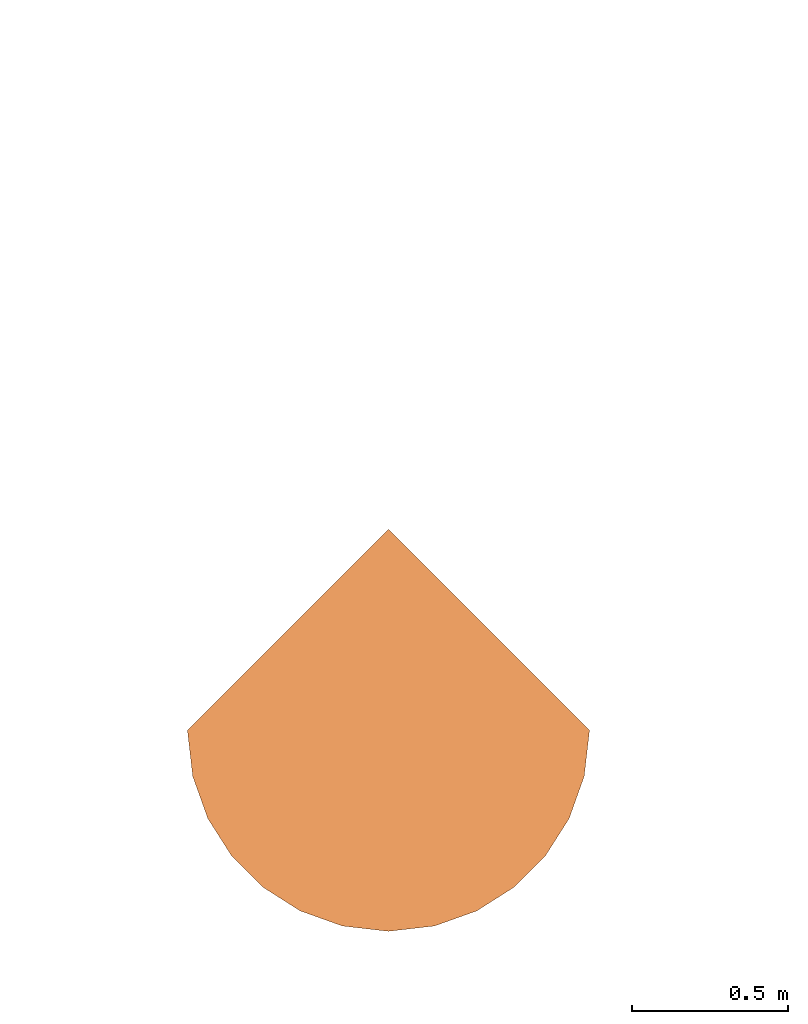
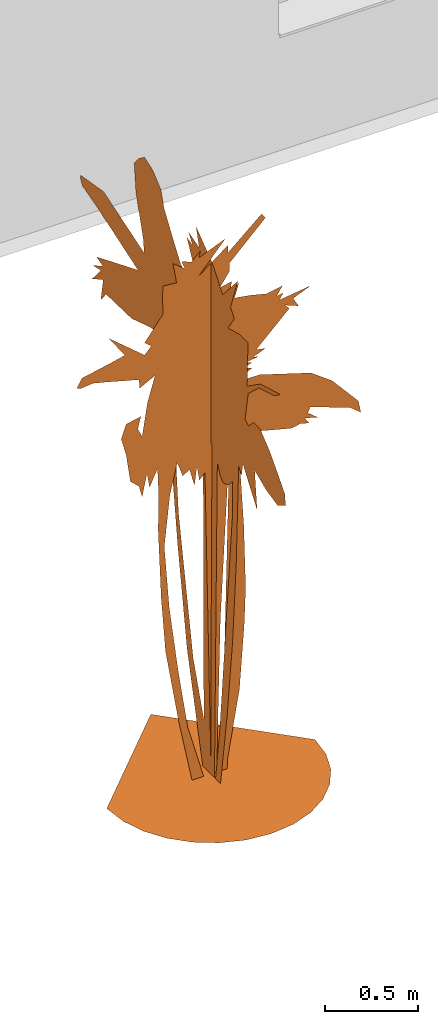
# One storey, part 18 of 18: 1 proxy.
"""IFC2X3 building model written with IfcOpenShell, lengths in metres."""

from ifc_helpers import new_model, entity, si_unit, converted_unit, derived_unit, direction, frame, origin, place, context, subcontext, project, spatial, face_set, surface_model, source, transform, mapped, type_object, type_shapes, element, save


model = new_model("IFC2X3")

# Units and contexts
model_context = context("Model", 3, precision=1e-05, world=origin(), true_north=direction((6.12303176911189e-17, 1.0)))
body_context = subcontext(model_context, "Body", "Model", "MODEL_VIEW")
ifc_project = project(units=[si_unit("LENGTHUNIT", "METRE"), si_unit("AREAUNIT", "SQUARE_METRE"), si_unit("VOLUMEUNIT", "CUBIC_METRE"), converted_unit("PLANEANGLEUNIT", "DEGREE", entity("IfcRatioMeasure", 0.0174532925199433), si_unit("PLANEANGLEUNIT", "RADIAN"), dimensions=[0, 0, 0, 0, 0, 0, 0]), si_unit("MASSUNIT", "GRAM", prefix="KILO"), derived_unit("MASSDENSITYUNIT", [(si_unit("MASSUNIT", "GRAM", prefix="KILO"), 1), (si_unit("LENGTHUNIT", "METRE"), -3)]), derived_unit("MOMENTOFINERTIAUNIT", [(si_unit("LENGTHUNIT", "METRE"), 4)]), si_unit("TIMEUNIT", "SECOND"), si_unit("FREQUENCYUNIT", "HERTZ"), si_unit("THERMODYNAMICTEMPERATUREUNIT", "DEGREE_CELSIUS"), derived_unit("THERMALTRANSMITTANCEUNIT", [(si_unit("MASSUNIT", "GRAM", prefix="KILO"), 1), (si_unit("THERMODYNAMICTEMPERATUREUNIT", "KELVIN"), -1), (si_unit("TIMEUNIT", "SECOND"), -3)]), derived_unit("VOLUMETRICFLOWRATEUNIT", [(si_unit("LENGTHUNIT", "METRE"), 3), (si_unit("TIMEUNIT", "SECOND"), -1)]), si_unit("ELECTRICCURRENTUNIT", "AMPERE"), si_unit("ELECTRICVOLTAGEUNIT", "VOLT"), si_unit("POWERUNIT", "WATT"), si_unit("FORCEUNIT", "NEWTON", prefix="KILO"), si_unit("ILLUMINANCEUNIT", "LUX"), si_unit("LUMINOUSFLUXUNIT", "LUMEN"), si_unit("LUMINOUSINTENSITYUNIT", "CANDELA"), derived_unit("USERDEFINED", [(si_unit("MASSUNIT", "GRAM", prefix="KILO"), -1), (si_unit("LENGTHUNIT", "METRE"), -2), (si_unit("TIMEUNIT", "SECOND"), 3), (si_unit("LUMINOUSFLUXUNIT", "LUMEN"), 1)]), derived_unit("LINEARVELOCITYUNIT", [(si_unit("LENGTHUNIT", "METRE"), 1), (si_unit("TIMEUNIT", "SECOND"), -1)]), si_unit("PRESSUREUNIT", "PASCAL"), derived_unit("USERDEFINED", [(si_unit("LENGTHUNIT", "METRE"), -2), (si_unit("MASSUNIT", "GRAM", prefix="KILO"), 1), (si_unit("TIMEUNIT", "SECOND"), -2)]), derived_unit("LINEARFORCEUNIT", [(si_unit("MASSUNIT", "GRAM", prefix="KILO"), 1), (si_unit("LENGTHUNIT", "METRE"), 1), (si_unit("TIMEUNIT", "SECOND"), -2), (si_unit("LENGTHUNIT", "METRE"), -1)]), derived_unit("PLANARFORCEUNIT", [(si_unit("MASSUNIT", "GRAM", prefix="KILO"), 1), (si_unit("LENGTHUNIT", "METRE"), 1), (si_unit("TIMEUNIT", "SECOND"), -2), (si_unit("LENGTHUNIT", "METRE"), -2)])], contexts=[model_context])

# Site, building, storey
site_placement = place(None, origin())
site = spatial("IfcSite", under=ifc_project, at=site_placement, Name="Surface", CompositionType="ELEMENT")
building_placement = place(site_placement, origin())
building = spatial("IfcBuilding", under=site, at=building_placement, CompositionType="ELEMENT")
storey_placement = place(building_placement, origin())
storey = spatial("IfcBuildingStorey", under=building, at=storey_placement, Name="RDC", CompositionType="ELEMENT", Elevation=-1.94916083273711e-14)

# Proxy
building_element_proxy_type = type_object("IfcBuildingElementProxyType", Name="RPC Arbre - Tropical:Palmier princesse - 3.6 mètres", PredefinedType="NOTDEFINED")
shared_shape = source(origin(), body_context, "Body", "SurfaceModel", [
    surface_model("IfcFaceBasedSurfaceModel", [(0.643966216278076, 5.62802128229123e-08, 0.0), (0.000196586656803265, 0.643769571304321, 0.0), (-0.643572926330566, 0.0, 0.0), (0.62694872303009, -0.147509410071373, 0.0), (-0.626555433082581, -0.147509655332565, 0.0), (0.578476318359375, -0.282972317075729, 0.0), (-0.578082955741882, -0.282972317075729, 0.0), (-0.502043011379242, -0.402509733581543, 0.0), (0.502436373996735, -0.402509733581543, 0.0), (0.402706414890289, -0.502239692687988, 0.0), (-0.402313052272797, -0.502239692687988, 0.0), (-0.282775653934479, -0.578279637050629, 0.0), (-0.147312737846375, -0.626752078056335, 0.0), (0.00019669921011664, -0.643769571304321, 0.0), (0.147706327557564, -0.626752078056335, 0.0), (0.28316898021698, -0.578279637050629, 0.0), (0.424438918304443, 9.30994364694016e-09, 2.94927317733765), (0.618661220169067, 1.43732408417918e-08, 2.97592300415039), (0.508221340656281, 1.6955288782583e-08, 2.93022317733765), (-0.53145298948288, -3.43029782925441e-08, 2.92259806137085), (-0.630467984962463, -6.51919580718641e-08, 3.06732294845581), (-0.409585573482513, -2.06443377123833e-08, 2.88072329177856), (0.260679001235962, 5.75432127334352e-08, 2.63317328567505), (0.294953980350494, 6.06399614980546e-08, 2.6255734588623), (0.222596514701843, 5.90207112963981e-08, 2.61414828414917), (-0.0858780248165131, 1.45555413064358e-07, 2.04288620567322), (-0.101111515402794, 1.66575648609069e-07, 1.92102126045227), (-0.131578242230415, 1.4460440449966e-07, 2.03527126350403), (0.5996212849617, 1.61182641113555e-07, 2.14952112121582), (0.660553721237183, 1.73119388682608e-07, 2.1000112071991), (0.580578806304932, 1.64985635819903e-07, 2.12286112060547), (-0.39435307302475, 1.1904692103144e-07, 2.10382114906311), (-0.424820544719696, 1.43382410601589e-07, 1.95910367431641), (-0.443860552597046, 1.28798919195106e-07, 2.03527126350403), (-0.0744530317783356, -9.62959346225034e-08, 3.39864778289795), (0.0893051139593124, -1.00265439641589e-07, 3.46719766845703), (-0.0744530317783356, -7.51854485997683e-08, 3.28059801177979), (-0.120153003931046, -9.65659410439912e-08, 3.38722289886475), (-0.0630282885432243, -1.03889432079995e-07, 3.44434790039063), (0.279721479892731, 5.10162181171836e-08, 2.67507334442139), (0.33684648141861, 5.59504624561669e-08, 2.66364816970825), (-0.329610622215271, 1.20961672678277e-07, 2.1114360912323), (-0.379118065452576, 1.37523415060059e-07, 2.00480364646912), (0.542496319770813, 2.95857318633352e-08, 2.86929811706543), (0.458713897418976, 1.92164886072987e-08, 2.90357305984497), (0.911903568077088, 1.82435875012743e-07, 2.11905364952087), (0.927136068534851, 1.97507375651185e-07, 2.03907873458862), (0.862396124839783, 1.84696884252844e-07, 2.09239611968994), (0.607236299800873, 1.73825643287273e-07, 2.08097123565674), (0.55392131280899, 1.68403389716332e-07, 2.09620359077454), (-0.211552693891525, -8.28054459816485e-08, 3.28439777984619), (-0.23440293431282, -1.07796182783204e-07, 3.41769778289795), (-0.158236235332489, -9.30456872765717e-08, 3.35674772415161), (0.253064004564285, 6.32867096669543e-08, 2.59889834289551), (0.203554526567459, 6.35047081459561e-08, 2.58367340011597), (-0.181086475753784, -1.04416935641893e-07, 3.41387272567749), (0.344463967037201, -6.9954705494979e-09, 3.01782306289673), (0.443478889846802, -5.38894674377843e-09, 3.03684806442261), (0.405396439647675, 2.89829820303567e-09, 2.97972306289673), (0.256871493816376, 6.96082064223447e-08, 2.56462340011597), (0.138813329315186, 7.38477005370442e-08, 2.50749839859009), (0.447286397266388, 3.65662274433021e-09, 2.98734817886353), (-0.036369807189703, 1.58956647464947e-07, 1.98195373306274), (-0.0706447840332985, 1.64031898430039e-07, 1.94387131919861), (0.123580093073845, -3.7923224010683e-08, 3.12824800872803), (0.173088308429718, -3.88224758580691e-08, 3.14729800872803), (0.14642982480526, -2.45091836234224e-08, 3.05969812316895), (0.104538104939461, -9.06416962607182e-08, 3.41769778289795), (0.104538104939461, -8.17889456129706e-08, 3.36817289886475), (-0.523835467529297, 4.71192218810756e-08, 2.46941845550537), (-0.432435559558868, 4.83402195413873e-08, 2.48846089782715), (-0.451478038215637, 6.09962117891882e-08, 2.41229345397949), (-0.344843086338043, 1.05526679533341e-08, 2.72457322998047), (-0.44005304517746, 1.45867410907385e-08, 2.67507334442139), (-0.443860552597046, 4.1792222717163e-09, 2.73219834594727), (-0.554302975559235, 6.12399608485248e-08, 2.38182845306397), (0.0550301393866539, -4.68407214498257e-08, 3.15872289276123), (0.127388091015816, -4.59024690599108e-08, 3.17394783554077), (-0.173469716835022, 1.47250905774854e-07, 2.00861126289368), (-0.207744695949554, 1.27810668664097e-07, 2.10762862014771), (-0.143002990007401, 4.44339712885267e-07, 0.355797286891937), (-0.0439865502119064, 5.12477177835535e-07, 8.00449505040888e-06), (-0.116344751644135, 5.09654688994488e-07, 4.04002236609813e-06), (-0.200127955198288, 4.29872226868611e-07, 0.420539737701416), (-0.203936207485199, 3.69069774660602e-07, 0.759481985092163), (-0.280103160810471, 3.40019793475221e-07, 0.900389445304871), (-0.257253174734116, 2.91464828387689e-07, 1.17839674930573), (-0.306760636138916, 2.75339827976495e-07, 1.25456426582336), (-0.287718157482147, 2.17057354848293e-07, 1.58588895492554), (-0.325803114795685, 1.91976627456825e-07, 1.71537145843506), (-0.253445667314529, 1.60908649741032e-07, 1.9095962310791), (-0.321993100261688, 1.55396405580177e-07, 1.92102126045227), (0.748146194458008, 1.40098412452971e-07, 2.30947095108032), (0.614853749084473, 1.55824649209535e-07, 2.18379606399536), (-0.801842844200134, -2.6196732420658e-08, 2.80074823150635), (-0.828502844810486, -2.89079804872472e-08, 2.80834805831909), (-0.79803537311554, -3.75807261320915e-08, 2.86547305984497), (0.618661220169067, 1.16520427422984e-07, 2.4046785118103), (-0.729485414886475, -2.38965342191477e-08, 2.80834805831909), (-0.630467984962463, -3.52287278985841e-08, 2.89974800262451), (-0.653317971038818, -1.66366648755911e-08, 2.78932334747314), (0.313996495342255, -1.038749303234e-07, 3.55097278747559), (0.33684648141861, -9.65894349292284e-08, 3.51669784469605), (0.115963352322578, -6.89529548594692e-08, 3.29962301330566), (-0.497178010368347, 1.17247672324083e-07, 2.08477870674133), (0.100729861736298, 5.20939654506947e-07, 4.03187255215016e-06), (0.0550301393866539, 5.19177162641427e-07, 6.64109589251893e-08), (0.0854966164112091, 3.73504747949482e-07, 0.816606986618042), (0.104538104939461, 5.07942164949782e-07, 0.0701739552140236), (0.176896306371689, 4.36014734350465e-07, 0.492897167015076), (0.20736303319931, 3.61287269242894e-07, 0.919429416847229), (0.115963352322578, 1.41470413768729e-07, 2.12286112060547), (0.214979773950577, 3.2081229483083e-07, 1.14792927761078), (0.203554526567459, 2.47369837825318e-07, 1.55542148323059), (0.165471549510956, 1.32399417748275e-07, 2.18760353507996), (0.115963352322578, -5.94192107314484e-08, 3.24632277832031), (-0.523835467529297, 8.25304497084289e-08, 2.27138606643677), (-0.299145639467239, -7.63429469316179e-08, 3.22347301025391), (-0.295335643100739, -8.84079406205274e-08, 3.29202289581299), (-0.424820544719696, 7.2560201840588e-08, 2.35517092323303), (0.0359881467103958, 5.17412175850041e-07, 4.03429734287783e-06), (0.0017132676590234, 5.1564968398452e-07, 4.03559747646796e-06), (0.0588383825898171, 3.40829778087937e-07, 0.991789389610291), (-0.367693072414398, -2.66959839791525e-08, 2.92642311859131), (-0.409585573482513, -3.49449777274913e-08, 2.96069806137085), (-0.337228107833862, -4.83072180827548e-08, 3.05589806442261), (0.485371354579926, 2.60134831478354e-08, 2.87309817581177), (0.302571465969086, 8.28169503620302e-08, 2.50369833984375), (0.500603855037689, 1.67747899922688e-07, 2.08477870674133), (0.424438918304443, 1.60487890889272e-07, 2.10382114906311), (0.294953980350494, 1.47805662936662e-07, 2.13809609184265), (0.237829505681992, -1.71592890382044e-08, 3.0444731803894), (-0.295335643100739, -5.57207127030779e-08, 3.10922300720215), (-0.390543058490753, 3.61599763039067e-08, 2.5684234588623), (0.000196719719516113, 0.0298762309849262, 2.18066355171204), (0.000196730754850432, 0.0755382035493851, 0.31231981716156), (0.000196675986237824, 0.0831486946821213, 2.1197810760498), (0.000196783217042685, 0.00323972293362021, 0.156306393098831), (0.000196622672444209, 1.17904176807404, 2.57639826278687), (0.000196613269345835, 1.26275664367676, 2.55737326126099), (0.000196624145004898, 1.15621176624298, 2.61824832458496), (0.000196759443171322, -0.126136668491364, 3.20807307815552), (0.000196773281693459, -0.289759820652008, 3.39832280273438), (0.000196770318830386, -0.209850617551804, 3.1776229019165), (0.00019681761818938, -0.529487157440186, 2.86939811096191), (0.000196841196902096, -0.742577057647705, 2.93027317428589), (0.000196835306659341, -0.681694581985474, 2.88462305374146), (0.000196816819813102, -0.514264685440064, 2.83514816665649), (0.000196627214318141, 1.15240429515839, 2.53074843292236), (0.00019661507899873, 1.27036664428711, 2.4660535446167), (0.000196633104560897, 1.12196429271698, 2.45463854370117), (0.000196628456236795, 1.17904176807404, 2.38233845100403), (0.000196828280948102, -0.468602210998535, 2.26818350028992), (0.00019683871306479, -0.495239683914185, 2.02465127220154), (0.000196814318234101, -0.343032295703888, 2.23393602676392), (0.000196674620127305, 0.109784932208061, 2.05889874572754), (0.000196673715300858, 0.136421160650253, 1.98279379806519), (0.000196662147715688, 0.178277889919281, 2.20349602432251), (0.000196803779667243, -0.388694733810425, 2.77047333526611), (0.000196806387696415, -0.400109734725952, 2.7285982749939), (0.000196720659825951, 0.456057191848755, 2.18066355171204), (0.000196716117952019, 0.505524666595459, 2.13500107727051), (0.000196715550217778, 0.459862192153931, 2.3366759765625), (0.000196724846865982, 0.125005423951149, 3.36407285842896), (0.000196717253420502, 0.159251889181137, 3.48204763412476), (0.000196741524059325, -0.0119810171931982, 3.35267297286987), (0.000196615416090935, 1.22470416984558, 2.63729832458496), (0.000196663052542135, 0.779496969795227, 2.81992322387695), (0.000196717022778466, 0.197303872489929, 3.3374477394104), (0.000196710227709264, 0.239160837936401, 3.39832280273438), (0.000196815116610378, -0.327812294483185, 2.14641869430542), (0.00019681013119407, -0.297369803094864, 2.19207855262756), (0.000196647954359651, 0.711004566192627, 3.59999770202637), (0.00019665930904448, 0.623484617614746, 3.56954781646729), (0.000196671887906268, 0.535964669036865, 3.49724786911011), (0.000196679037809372, 0.501719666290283, 3.39452274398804), (0.000196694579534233, 0.406589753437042, 3.25372290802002), (0.000196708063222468, 0.322874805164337, 3.13577313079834), (0.000196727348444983, 0.155447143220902, 3.15859790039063), (0.000196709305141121, 0.25818732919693, 3.35267297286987), (0.000196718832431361, 0.242966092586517, 3.09389807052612), (0.000196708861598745, 0.47888719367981, 2.48507854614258), (0.000196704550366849, 0.520744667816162, 2.46224854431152), (0.000196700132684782, 0.535964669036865, 2.54977343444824), (0.000196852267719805, -0.103305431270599, 6.5168456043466e-06), (0.000196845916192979, -0.050032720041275, 6.51842073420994e-06), (0.000196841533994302, -0.0918899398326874, 0.316124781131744), (0.000196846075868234, -0.175603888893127, 0.498772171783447), (0.000196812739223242, -0.232681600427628, 1.84580884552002), (0.000196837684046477, -0.232681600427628, 1.00866684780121), (0.000196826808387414, -0.270732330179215, 1.52617152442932), (0.000196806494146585, -0.232681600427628, 2.05509374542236), (0.000196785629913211, -0.308784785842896, 3.05967312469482), (0.000196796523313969, -0.400109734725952, 3.05967312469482), (0.000196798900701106, -0.392499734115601, 2.94932317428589), (0.00019658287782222, 1.39593659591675, 3.04444818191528), (0.000196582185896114, 1.39593659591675, 3.06727295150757), (0.000196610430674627, 1.14859929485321, 3.10912301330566), (0.000196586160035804, 1.37691159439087, 3.01019794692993), (0.000196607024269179, 1.21328924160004, 2.96452311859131), (0.000196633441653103, 0.969756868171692, 3.05204800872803), (0.000196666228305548, 0.714809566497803, 2.97214823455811), (0.000196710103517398, 0.501719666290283, 2.35189844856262), (0.00019684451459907, -0.0386169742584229, 1.04859427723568e-05), (0.000196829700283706, 0.0869539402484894, 6.52249577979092e-06), (0.000196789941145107, 0.254382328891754, 0.662394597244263), (0.000196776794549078, -0.251707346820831, 3.12814801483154), (0.000196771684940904, -0.183214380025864, 3.0254231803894), (0.000196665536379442, 0.84798944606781, 2.46224854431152), (0.000196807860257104, -0.365862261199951, 2.54214831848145), (0.000196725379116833, -0.0119809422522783, 2.15783354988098), (0.000196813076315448, -0.403914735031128, 2.51932325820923), (0.000196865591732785, -0.792044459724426, 2.31004097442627), (0.000196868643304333, -0.799654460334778, 2.23774102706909), (0.000196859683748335, -0.712134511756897, 2.18827355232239), (0.000196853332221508, -0.712134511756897, 2.40136592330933), (0.000196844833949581, -0.594174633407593, 2.21491102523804), (0.000196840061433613, -0.624614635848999, 2.49649354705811), (0.000196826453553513, -0.529487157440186, 2.57259849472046), (0.00019681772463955, -0.457187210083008, 2.57639826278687), (0.00019680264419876, -0.187019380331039, 2.00182127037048), (0.000196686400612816, 0.657732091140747, 2.52312331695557), (0.000196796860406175, -0.133746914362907, 1.98279379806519), (0.000196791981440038, -0.0995001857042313, 2.00943127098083), (0.000196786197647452, -0.0690587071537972, 2.08172860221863), (0.000196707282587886, 0.189693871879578, 0.643369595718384), (0.000196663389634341, 0.345707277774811, 1.49192652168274), (0.000196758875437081, 0.357122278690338, 1.29405662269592), (0.000196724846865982, 0.456057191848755, 2.03987112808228), (0.000196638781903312, 0.398979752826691, 2.10456122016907), (0.000196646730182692, 0.322874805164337, 2.14261107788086), (0.000196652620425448, 0.254382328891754, 2.21871602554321), (0.000196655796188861, 0.208719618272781, 2.29481850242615), (0.000196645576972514, 0.802329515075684, 3.31459797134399), (0.000196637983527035, 0.82135444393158, 3.49344781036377), (0.000196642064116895, 0.771887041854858, 3.55434758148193), (0.00019666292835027, 0.722419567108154, 3.05204800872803)], [face_set([[[0, 1, 2]], [[3, 0, 2]], [[3, 2, 4]], [[5, 3, 4]], [[5, 4, 6]], [[5, 6, 7]], [[8, 5, 7]], [[9, 8, 7]], [[9, 7, 10]], [[9, 10, 11]], [[9, 11, 12]], [[9, 12, 13]], [[9, 13, 14]], [[9, 14, 15]], [[16, 17, 18]], [[19, 20, 21]], [[22, 23, 24]], [[25, 26, 27]], [[28, 29, 30]], [[31, 32, 33]], [[34, 35, 36]], [[37, 38, 34]], [[39, 40, 22]], [[41, 42, 31]], [[18, 43, 44]], [[45, 46, 47]], [[16, 18, 44]], [[30, 48, 49]], [[50, 51, 52]], [[24, 53, 54]], [[52, 55, 37]], [[56, 57, 58]], [[54, 59, 60]], [[58, 61, 16]], [[62, 63, 25]], [[64, 65, 66]], [[36, 67, 68]], [[69, 70, 71]], [[72, 73, 74]], [[75, 69, 71]], [[76, 77, 64]], [[37, 34, 36]], [[52, 37, 36]], [[27, 78, 79]], [[80, 81, 82]], [[80, 82, 83]], [[84, 80, 83]], [[84, 83, 85]], [[86, 84, 85]], [[86, 85, 87]], [[88, 86, 87]], [[88, 87, 89]], [[90, 88, 89]], [[90, 89, 91]], [[92, 45, 47]], [[92, 47, 93]], [[94, 95, 96]], [[97, 92, 93]], [[98, 94, 96]], [[98, 96, 99]], [[100, 98, 99]], [[68, 101, 102]], [[68, 102, 103]], [[36, 68, 103]], [[31, 33, 104]], [[105, 106, 107]], [[108, 105, 107]], [[109, 108, 107]], [[110, 109, 107]], [[110, 107, 111]], [[112, 110, 111]], [[113, 112, 111]], [[114, 113, 111]], [[50, 52, 36]], [[36, 103, 115]], [[36, 115, 76]], [[31, 104, 116]], [[117, 118, 50]], [[116, 75, 71]], [[116, 71, 119]], [[120, 121, 62]], [[122, 120, 62]], [[111, 122, 62]], [[111, 62, 25]], [[123, 124, 125]], [[31, 116, 119]], [[41, 31, 119]], [[44, 126, 39]], [[79, 90, 91]], [[79, 91, 41]], [[74, 100, 99]], [[74, 99, 19]], [[74, 19, 21]], [[72, 74, 21]], [[16, 44, 39]], [[127, 97, 93]], [[127, 93, 28]], [[127, 28, 30]], [[127, 30, 49]], [[127, 49, 128]], [[127, 128, 129]], [[127, 129, 130]], [[127, 130, 114]], [[60, 127, 114]], [[79, 41, 119]], [[72, 21, 123]], [[58, 16, 39]], [[56, 58, 39]], [[131, 56, 39]], [[66, 131, 39]], [[132, 117, 50]], [[132, 50, 36]], [[132, 36, 76]], [[25, 27, 79]], [[79, 119, 133]], [[111, 25, 79]], [[111, 79, 133]], [[114, 111, 133]], [[60, 114, 133]], [[60, 133, 72]], [[54, 60, 72]], [[24, 54, 72]], [[24, 72, 123]], [[24, 123, 125]], [[24, 125, 132]], [[24, 132, 76]], [[24, 76, 64]], [[24, 64, 66]], [[24, 66, 39]], [[24, 39, 22]], [[134, 135, 136]], [[135, 134, 137]], [[138, 139, 140]], [[141, 142, 143]], [[144, 145, 146]], [[144, 146, 147]], [[148, 149, 138]], [[150, 151, 148]], [[152, 153, 154]], [[155, 156, 157]], [[158, 144, 147]], [[158, 147, 159]], [[160, 161, 162]], [[163, 164, 165]], [[140, 166, 167]], [[168, 169, 163]], [[154, 170, 171]], [[136, 155, 172]], [[136, 172, 173]], [[136, 173, 174]], [[136, 174, 175]], [[136, 175, 176]], [[136, 176, 177]], [[178, 179, 168]], [[136, 177, 180]], [[134, 136, 180]], [[181, 182, 183]], [[184, 185, 186]], [[187, 184, 186]], [[187, 186, 188]], [[189, 187, 188]], [[190, 189, 188]], [[171, 190, 188]], [[171, 188, 191]], [[192, 193, 194]], [[178, 168, 163]], [[178, 163, 165]], [[178, 165, 141]], [[195, 196, 197]], [[198, 195, 197]], [[199, 198, 197]], [[167, 199, 197]], [[167, 197, 200]], [[167, 200, 201]], [[162, 202, 181]], [[203, 204, 205]], [[143, 206, 207]], [[141, 143, 207]], [[178, 141, 207]], [[208, 150, 148]], [[207, 192, 194]], [[207, 194, 158]], [[134, 180, 178]], [[134, 178, 207]], [[134, 207, 158]], [[134, 158, 159]], [[134, 159, 209]], [[210, 134, 209]], [[210, 209, 211]], [[212, 213, 214]], [[215, 212, 214]], [[215, 214, 216]], [[215, 216, 152]], [[217, 215, 152]], [[218, 217, 152]], [[219, 218, 152]], [[211, 219, 152]], [[210, 211, 152]], [[210, 152, 154]], [[210, 154, 171]], [[210, 171, 191]], [[210, 191, 220]], [[148, 138, 140]], [[208, 148, 140]], [[208, 140, 167]], [[221, 208, 167]], [[183, 221, 167]], [[183, 167, 201]], [[220, 222, 223]], [[220, 223, 224]], [[210, 220, 224]], [[137, 210, 224]], [[137, 224, 203]], [[137, 203, 205]], [[135, 137, 205]], [[225, 135, 205]], [[226, 225, 205]], [[226, 205, 227]], [[226, 227, 228]], [[229, 226, 228]], [[229, 228, 160]], [[230, 229, 160]], [[230, 160, 162]], [[231, 230, 162]], [[232, 231, 162]], [[232, 162, 181]], [[233, 234, 235]], [[233, 235, 172]], [[236, 233, 172]], [[181, 183, 201]], [[232, 181, 201]], [[232, 201, 236]], [[232, 236, 172]], [[232, 172, 155]], [[232, 155, 157]]])]),
])
type_shapes(building_element_proxy_type, [shared_shape])
proxy_placement = place(storey_placement, frame((-9.27326728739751, -5.34818319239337, -0.499999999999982)))
element("IfcBuildingElementProxy", 1, at=proxy_placement, inside=storey, type_object=building_element_proxy_type, Name="RPC Arbre - Tropical:Palmier princesse - 3.6 mètres", ObjectType="RPC Arbre - Tropical:Palmier princesse - 3.6 mètres", context=body_context, shape_type="MappedRepresentation", body=[
    mapped(shared_shape, transform((0.0, 0.0, 0.0), scale=1.0)),
])

save(model, "model.ifc")
